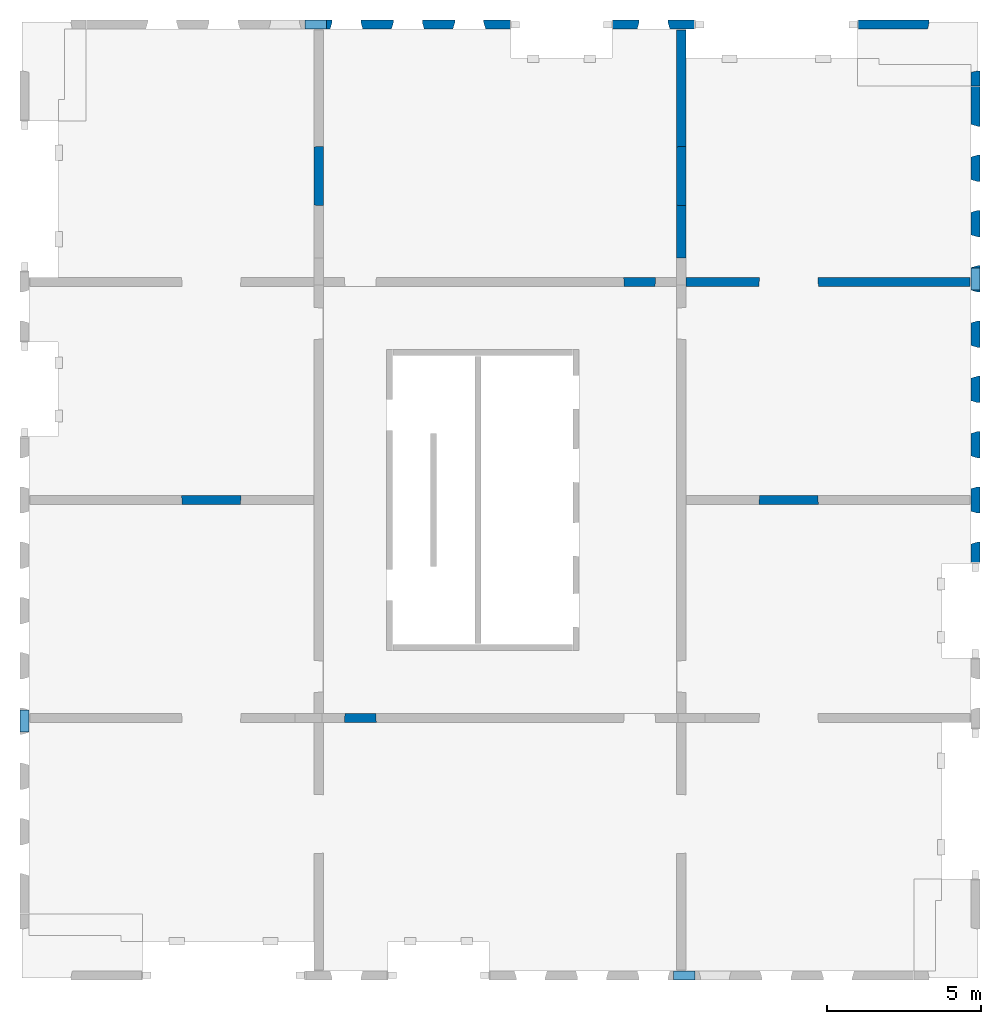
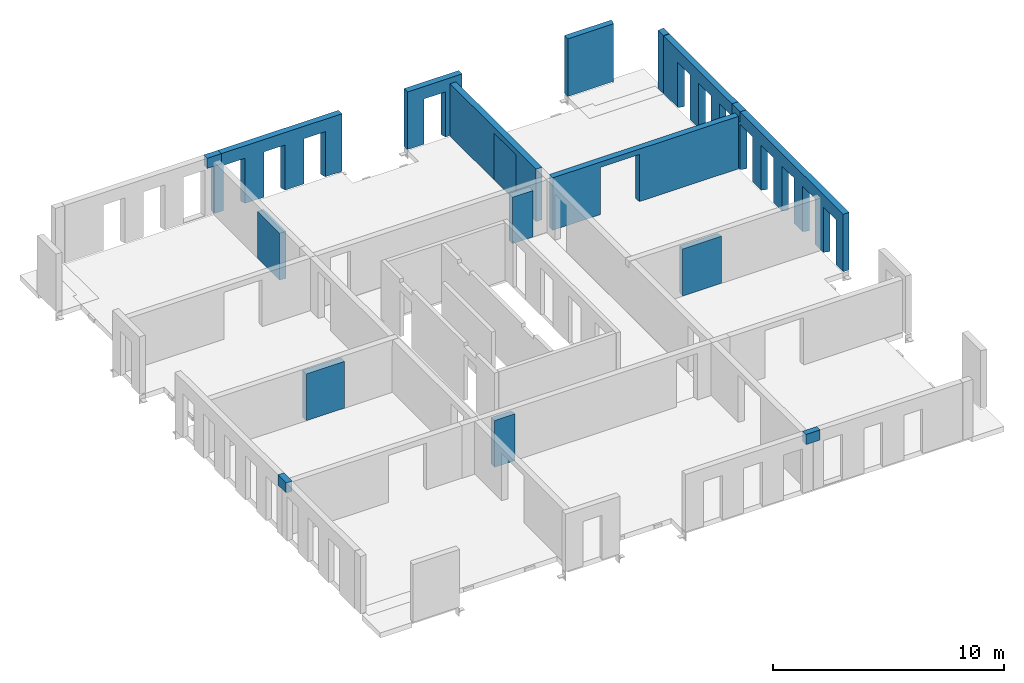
# One storey, part 4 of 4: 18 walls, 19 openings.
"""IFC2X3 building model written with IfcOpenShell, lengths in millimetres."""

from ifc_helpers import new_model, entity, si_unit, converted_unit, derived_unit, direction, frame, frame_2d, origin, place, context, subcontext, project, spatial, rectangle, extrude, faceted_brep, material, layer, layer_set, layer_usage, type_object, element, save


model = new_model("IFC2X3")

# Units and contexts
model_context = context("Model", 3, precision=0.01, world=origin(), true_north=direction((6.12303176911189e-17, 1.0)))
body_context = subcontext(model_context, "Body", "Model", "MODEL_VIEW")
ifc_project = project(units=[si_unit("LENGTHUNIT", "METRE", prefix="MILLI"), si_unit("AREAUNIT", "SQUARE_METRE"), si_unit("VOLUMEUNIT", "CUBIC_METRE"), converted_unit("PLANEANGLEUNIT", "DEGREE", entity("IfcRatioMeasure", 0.0174532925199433), si_unit("PLANEANGLEUNIT", "RADIAN"), dimensions=[0, 0, 0, 0, 0, 0, 0]), si_unit("MASSUNIT", "GRAM", prefix="KILO"), derived_unit("MASSDENSITYUNIT", [(si_unit("MASSUNIT", "GRAM", prefix="KILO"), 1), (si_unit("LENGTHUNIT", "METRE"), -3)]), si_unit("TIMEUNIT", "SECOND"), si_unit("FREQUENCYUNIT", "HERTZ"), si_unit("THERMODYNAMICTEMPERATUREUNIT", "DEGREE_CELSIUS"), derived_unit("THERMALTRANSMITTANCEUNIT", [(si_unit("MASSUNIT", "GRAM", prefix="KILO"), 1), (si_unit("THERMODYNAMICTEMPERATUREUNIT", "KELVIN"), -1), (si_unit("TIMEUNIT", "SECOND"), -3)]), derived_unit("VOLUMETRICFLOWRATEUNIT", [(si_unit("LENGTHUNIT", "METRE"), 3), (si_unit("TIMEUNIT", "SECOND"), -1)]), si_unit("ELECTRICCURRENTUNIT", "AMPERE"), si_unit("ELECTRICVOLTAGEUNIT", "VOLT"), si_unit("POWERUNIT", "WATT"), si_unit("FORCEUNIT", "NEWTON", prefix="KILO"), si_unit("ILLUMINANCEUNIT", "LUX"), si_unit("LUMINOUSFLUXUNIT", "LUMEN"), si_unit("LUMINOUSINTENSITYUNIT", "CANDELA"), derived_unit("USERDEFINED", [(si_unit("MASSUNIT", "GRAM", prefix="KILO"), -1), (si_unit("LENGTHUNIT", "METRE"), -2), (si_unit("TIMEUNIT", "SECOND"), 3), (si_unit("LUMINOUSFLUXUNIT", "LUMEN"), 1)]), derived_unit("LINEARVELOCITYUNIT", [(si_unit("LENGTHUNIT", "METRE"), 1), (si_unit("TIMEUNIT", "SECOND"), -1)]), si_unit("PRESSUREUNIT", "PASCAL"), derived_unit("USERDEFINED", [(si_unit("LENGTHUNIT", "METRE"), -2), (si_unit("MASSUNIT", "GRAM", prefix="KILO"), 1), (si_unit("TIMEUNIT", "SECOND"), -2)])], contexts=[model_context])

# Site, building, storey
site_placement = place(None, origin())
site = spatial("IfcSite", under=ifc_project, at=site_placement, Name="Default", CompositionType="ELEMENT")
building_placement = place(site_placement, origin())
building = spatial("IfcBuilding", under=site, at=building_placement, Name="niet gebruiken", CompositionType="ELEMENT")
storey_placement = place(building_placement, frame((0.0, 0.0, 137340.0)))
storey = spatial("IfcBuildingStorey", under=building, at=storey_placement, Name="44 vierenveertigste verdieping", CompositionType="ELEMENT", Elevation=137340.0)

# Wall, opening
ifc_material_1 = material(Name="NLRS_f2_beton prefab")
ifc_layer_1 = layer(ifc_material_1, 300.0)
ifc_layer_set_1 = layer_set([ifc_layer_1], Name="Basic Wall:NLRS_22.21_WA_beton prefab d=300_gen")
ifc_layer_usage_1 = layer_usage(ifc_layer_set_1, "AXIS2", "NEGATIVE", 150.0)
wall_type_1 = type_object("IfcWallType", Name="Basic Wall:NLRS_22.21_WA_beton prefab d=300_gen", PredefinedType="STANDARD", material=ifc_layer_set_1)
wall_1_placement = place(storey_placement, frame((157060.0, 24600.0, -70.0), z_axis=(0.0, 0.0, 1.0), x_axis=(-1.0, 0.0, 0.0)))
wall_1 = element("IfcWallStandardCase", 1, at=wall_1_placement, inside=storey, type_object=wall_type_1, material=ifc_layer_usage_1, Name="Basic Wall:NLRS_22.21_WA_beton prefab d=300_gen", ObjectType="Basic Wall:NLRS_22.21_WA_beton prefab d=300_gen", context=body_context, shape_type="SweptSolid", body=[
    extrude(rectangle(XDim=9260.00000000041, YDim=300.000000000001, at=frame_2d((4630.0000000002, -1.69109171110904e-12), x_axis=(-1.0, 0.0))), origin(), (0.0, 0.0, 1.0), 2769.99999999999),
])
opening_1_placement = place(wall_1_placement, frame((6878.0, 150.0, 0.0)))
element("IfcOpeningElement", 2, at=opening_1_placement, cuts=wall_1, Name="Basic Wall:NLRS_22.21_WA_beton prefab d=300_gen", ObjectType="Opening", context=body_context, shape_type="Brep", body=[
    faceted_brep([(-18.0, -300.0, 2470.0), (-1918.0, -300.0, 2470.0), (-1918.0, -300.0, 0.0), (-18.0, -300.0, 0.0), (0.0, 0.0, 2488.0), (0.0, 0.0, 0.0), (-1936.0, 0.0, 0.0), (-1936.0, 0.0, 2488.0)], [[[0, 1, 2, 3]], [[4, 5, 6, 7]], [[4, 7, 1, 0]], [[7, 6, 2, 1]], [[6, 5, 3, 2]], [[5, 4, 0, 3]]]),
])

ifc_layer_usage_2 = layer_usage(ifc_layer_set_1, "AXIS2", "NEGATIVE", 150.0)
wall_2_placement = place(storey_placement, frame((147650.0, 25380.0, -70.0), z_axis=(0.0, 0.0, 1.0), x_axis=(0.0, 1.0, 0.0)))
wall_2 = element("IfcWallStandardCase", 3, at=wall_2_placement, inside=storey, type_object=wall_type_1, material=ifc_layer_usage_2, Name="Basic Wall:NLRS_22.21_WA_beton prefab d=300_gen", ObjectType="Basic Wall:NLRS_22.21_WA_beton prefab d=300_gen", context=body_context, shape_type="SweptSolid", body=[
    extrude(rectangle(XDim=7429.99999999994, YDim=300.000000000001, at=frame_2d((3714.99999999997, 7.14805992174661e-12), x_axis=(-1.0, 0.0))), origin(), (0.0, 0.0, 1.0), 2769.99999999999),
])
opening_2_placement = place(wall_2_placement, frame((1702.0, 150.0, 0.0)))
element("IfcOpeningElement", 4, at=opening_2_placement, cuts=wall_2, Name="Basic Wall:NLRS_22.21_WA_beton prefab d=300_gen", ObjectType="Opening", context=body_context, shape_type="Brep", body=[
    faceted_brep([(1918.0, 0.0, 2470.0), (1918.0, 0.0, 0.0), (18.0, 0.0, 0.0), (18.0, 0.0, 2470.0), (1936.0, -300.0, 2488.0), (0.0, -300.0, 2488.0), (0.0, -300.0, 0.0), (1936.0, -300.0, 0.0)], [[[0, 1, 2, 3]], [[4, 5, 6, 7]], [[4, 0, 3, 5]], [[5, 3, 2, 6]], [[6, 2, 1, 7]], [[7, 1, 0, 4]]]),
])

# Walls
ifc_material_2 = material(Name="NLRS_f2_beton ihwg")
ifc_layer_2 = layer(ifc_material_2, 300.0)
ifc_layer_set_2 = layer_set([ifc_layer_2], Name="Basic Wall:NLRS_21.21_WA_beton ihwg d=300_gen")
ifc_layer_usage_3 = layer_usage(ifc_layer_set_2, "AXIS2", "NEGATIVE", 150.0)
wall_type_2 = type_object("IfcWallType", Name="Basic Wall:NLRS_21.21_WA_beton ihwg d=300_gen", PredefinedType="STANDARD", material=ifc_layer_set_2)
wall_3_placement = place(storey_placement, frame((148105.0, 2020.0, 2455.0), z_axis=(0.0, 0.0, 1.0), x_axis=(-1.0, 0.0, 0.0)))
element("IfcWallStandardCase", 5, at=wall_3_placement, inside=storey, type_object=wall_type_2, material=ifc_layer_usage_3, Name="Basic Wall:NLRS_21.21_WA_beton ihwg d=300_gen", ObjectType="Basic Wall:NLRS_21.21_WA_beton ihwg d=300_gen", context=body_context, shape_type="SweptSolid", body=[
    extrude(rectangle(XDim=710.000000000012, YDim=300.0, at=frame_2d((355.000000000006, -1.4210854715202e-14), x_axis=(-1.0, 0.0))), origin(), (0.0, 0.0, 1.0), 535.0),
])
ifc_layer_usage_4 = layer_usage(ifc_layer_set_2, "AXIS2", "NEGATIVE", 150.0)
wall_4_placement = place(storey_placement, frame((135395.0, 32980.0, 2455.0)))
element("IfcWallStandardCase", 6, at=wall_4_placement, inside=storey, type_object=wall_type_2, material=ifc_layer_usage_4, Name="Basic Wall:NLRS_21.21_WA_beton ihwg d=300_gen", ObjectType="Basic Wall:NLRS_21.21_WA_beton ihwg d=300_gen", context=body_context, shape_type="SweptSolid", body=[
    extrude(rectangle(XDim=710.000000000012, YDim=300.000000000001, at=frame_2d((355.000000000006, 0.0), x_axis=(-1.0, 0.0))), origin(), (0.0, 0.0, 1.0), 535.0),
])
ifc_layer_usage_5 = layer_usage(ifc_layer_set_2, "AXIS2", "NEGATIVE", 150.0)
wall_5_placement = place(storey_placement, frame((157230.0, 25055.0, 2455.0), z_axis=(0.0, 0.0, 1.0), x_axis=(0.0, -1.0, 0.0)))
element("IfcWallStandardCase", 7, at=wall_5_placement, inside=storey, type_object=wall_type_2, material=ifc_layer_usage_5, Name="Basic Wall:NLRS_21.21_WA_beton ihwg d=300_gen", ObjectType="Basic Wall:NLRS_21.21_WA_beton ihwg d=300_gen", context=body_context, shape_type="SweptSolid", body=[
    extrude(rectangle(XDim=710.000000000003, YDim=300.000000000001, at=frame_2d((355.000000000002, 9.9475983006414e-13), x_axis=(-1.0, 0.0))), origin(), (0.0, 0.0, 1.0), 535.0),
])
ifc_layer_usage_6 = layer_usage(ifc_layer_set_2, "AXIS2", "NEGATIVE", 150.0)
wall_6_placement = place(storey_placement, frame((126270.0, 9945.0, 2455.0), z_axis=(0.0, 0.0, 1.0), x_axis=(0.0, 1.0, 0.0)))
element("IfcWallStandardCase", 8, at=wall_6_placement, inside=storey, type_object=wall_type_2, material=ifc_layer_usage_6, Name="Basic Wall:NLRS_21.21_WA_beton ihwg d=300_gen", ObjectType="Basic Wall:NLRS_21.21_WA_beton ihwg d=300_gen", context=body_context, shape_type="SweptSolid", body=[
    extrude(rectangle(XDim=710.000000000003, YDim=300.000000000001, at=frame_2d((355.000000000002, 0.0), x_axis=(-1.0, 0.0))), origin(), (0.0, 0.0, 1.0), 535.0),
])

# Wall, opening
ifc_layer_3 = layer(ifc_material_1, 300.0)
ifc_layer_set_3 = layer_set([ifc_layer_3], Name="Basic Wall:NLRS_21.21_WA_beton prefab d=300/320_gen")
ifc_layer_usage_7 = layer_usage(ifc_layer_set_3, "AXIS2", "NEGATIVE", 150.0)
wall_type_3 = type_object("IfcWallType", Name="Basic Wall:NLRS_21.21_WA_beton prefab d=300/320_gen", PredefinedType="STANDARD", material=ifc_layer_set_3)
wall_7_placement = place(storey_placement, frame((145390.0, 32980.0, -50.0)))
wall_7 = element("IfcWallStandardCase", 9, at=wall_7_placement, inside=storey, type_object=wall_type_3, material=ifc_layer_usage_7, Name="Basic Wall:NLRS_21.21_WA_beton prefab d=300/320_gen", ObjectType="Basic Wall:NLRS_21.21_WA_beton prefab d=300/320_gen", context=body_context, shape_type="SweptSolid", body=[
    extrude(rectangle(XDim=2720.00000000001, YDim=300.000000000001, at=frame_2d((1360.0, -4.54747350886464e-13), x_axis=(-1.0, 0.0))), origin(), (0.0, 0.0, 1.0), 3040.0),
])
opening_3_placement = place(wall_7_placement, frame((825.0, -150.0, -20.0)))
element("IfcOpeningElement", 10, at=opening_3_placement, cuts=wall_7, Name="Basic Wall:NLRS_21.21_WA_beton prefab d=300/320_gen", ObjectType="Opening", context=body_context, shape_type="Brep", body=[
    faceted_brep([(0.0, 0.0, 2405.0), (0.0, 0.0, 0.0), (1070.0, 0.0, 0.0), (1070.0, 0.0, 2405.0), (1005.0, 219.0, 2370.0), (65.0, 219.0, 2370.0), (1005.0, 219.0, 0.0), (65.0, 219.0, 0.0), (65.0, 300.0, 0.0), (1005.0, 300.0, 0.0), (65.0, 300.0, 2370.0), (1005.0, 300.0, 2370.0)], [[[0, 1, 2, 3]], [[3, 4, 5, 0]], [[2, 6, 4, 3]], [[1, 7, 8, 9, 6, 2]], [[0, 5, 7, 1]], [[10, 11, 9, 8]], [[10, 5, 4, 11]], [[11, 4, 6, 9]], [[8, 7, 5, 10]]]),
])

# Wall, openings
ifc_layer_usage_8 = layer_usage(ifc_layer_set_3, "AXIS2", "NEGATIVE", 150.0)
wall_8_placement = place(storey_placement, frame((157230.0, 30960.0, -50.0), z_axis=(0.0, 0.0, 1.0), x_axis=(0.0, -1.0, 0.0)))
wall_8 = element("IfcWallStandardCase", 11, at=wall_8_placement, inside=storey, type_object=wall_type_3, material=ifc_layer_usage_8, Name="Basic Wall:NLRS_21.21_WA_beton prefab d=300/320_gen", ObjectType="Basic Wall:NLRS_21.21_WA_beton prefab d=300/320_gen", context=body_context, shape_type="SweptSolid", body=[
    extrude(rectangle(XDim=6249.99999999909, YDim=300.000000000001, at=frame_2d((3124.99999999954, -8.61177795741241e-12), x_axis=(-1.0, 0.0))), origin(), (0.0, 0.0, 1.0), 3040.0),
])
opening_4_placement = place(wall_8_placement, frame((2295.0, -150.0, -20.0)))
element("IfcOpeningElement", 12, at=opening_4_placement, cuts=wall_8, Name="Basic Wall:NLRS_21.21_WA_beton prefab d=300/320_gen", ObjectType="Opening", context=body_context, shape_type="Brep", body=[
    faceted_brep([(-1070.0, 0.0, 2405.0), (-1070.0, 0.0, 0.0), (0.0, 0.0, 0.0), (0.0, 0.0, 2405.0), (-65.0, 219.0, 2370.0), (-1005.0, 219.0, 2370.0), (-65.0, 219.0, 0.0), (-1005.0, 219.0, 0.0), (-1005.0, 300.0, 0.0), (-65.0, 300.0, 0.0), (-1005.0, 300.0, 2370.0), (-65.0, 300.0, 2370.0)], [[[0, 1, 2, 3]], [[3, 4, 5, 0]], [[2, 6, 4, 3]], [[1, 7, 8, 9, 6, 2]], [[0, 5, 7, 1]], [[10, 11, 9, 8]], [[10, 5, 4, 11]], [[11, 4, 6, 9]], [[8, 7, 5, 10]]]),
])
opening_5_placement = place(wall_8_placement, frame((4095.0, -150.0, -20.0)))
element("IfcOpeningElement", 13, at=opening_5_placement, cuts=wall_8, Name="Basic Wall:NLRS_21.21_WA_beton prefab d=300/320_gen", ObjectType="Opening", context=body_context, shape_type="Brep", body=[
    faceted_brep([(-1070.0, 0.0, 2405.0), (-1070.0, 0.0, 0.0), (0.0, 0.0, 0.0), (0.0, 0.0, 2405.0), (-65.0, 219.0, 2370.0), (-1005.0, 219.0, 2370.0), (-65.0, 219.0, 0.0), (-1005.0, 219.0, 0.0), (-1005.0, 300.0, 0.0), (-65.0, 300.0, 0.0), (-1005.0, 300.0, 2370.0), (-65.0, 300.0, 2370.0)], [[[0, 1, 2, 3]], [[3, 4, 5, 0]], [[2, 6, 4, 3]], [[1, 7, 8, 9, 6, 2]], [[0, 5, 7, 1]], [[10, 11, 9, 8]], [[10, 5, 4, 11]], [[11, 4, 6, 9]], [[8, 7, 5, 10]]]),
])
opening_6_placement = place(wall_8_placement, frame((5895.0, -150.0, -20.0)))
element("IfcOpeningElement", 14, at=opening_6_placement, cuts=wall_8, Name="Basic Wall:NLRS_21.21_WA_beton prefab d=300/320_gen", ObjectType="Opening", context=body_context, shape_type="Brep", body=[
    faceted_brep([(-1070.0, 0.0, 2405.0), (-1070.0, 0.0, 0.0), (0.0, 0.0, 0.0), (0.0, 0.0, 2405.0), (-65.0, 219.0, 2370.0), (-1005.0, 219.0, 2370.0), (-65.0, 219.0, 0.0), (-1005.0, 219.0, 0.0), (-1005.0, 300.0, 0.0), (-65.0, 300.0, 0.0), (-1005.0, 300.0, 2370.0), (-65.0, 300.0, 2370.0)], [[[0, 1, 2, 3]], [[3, 4, 5, 0]], [[2, 6, 4, 3]], [[1, 7, 8, 9, 6, 2]], [[0, 5, 7, 1]], [[10, 11, 9, 8]], [[10, 5, 4, 11]], [[11, 4, 6, 9]], [[8, 7, 5, 10]]]),
])
opening_7_placement = place(wall_8_placement, origin())
element("IfcOpeningElement", 15, at=opening_7_placement, cuts=wall_8, Name="Basic Wall:NLRS_21.21_WA_beton prefab d=300/320_gen", ObjectType="Opening", context=body_context, shape_type="SweptSolid", body=[
    extrude(rectangle(XDim=534.99999999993, YDim=344.999999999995, at=frame_2d((0.0, -2.17426077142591e-12), x_axis=(1.0, 0.0))), frame((6077.49999999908, 150.0, 2772.50000000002), z_axis=(0.0, -1.0, 0.0), x_axis=(0.0, 0.0, 1.0)), (0.0, 0.0, 1.0), 300.0),
])

# Wall, opening
ifc_layer_usage_9 = layer_usage(ifc_layer_set_3, "AXIS2", "NEGATIVE", 150.0)
wall_9_placement = place(storey_placement, frame((153390.0, 32980.0, -50.0)))
wall_9 = element("IfcWallStandardCase", 16, at=wall_9_placement, inside=storey, type_object=wall_type_3, material=ifc_layer_usage_9, Name="Basic Wall:NLRS_21.21_WA_beton prefab d=300/320_gen", ObjectType="Basic Wall:NLRS_21.21_WA_beton prefab d=300/320_gen", context=body_context, shape_type="SweptSolid", body=[
    extrude(rectangle(XDim=2330.00000000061, YDim=300.000000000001, at=frame_2d((1165.00000000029, -1.29318777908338e-12), x_axis=(-1.0, 0.0))), origin(), (0.0, 0.0, 1.0), 3040.0),
])
opening_8_placement = place(wall_9_placement, frame((2265.0, -250.0, 0.0)))
element("IfcOpeningElement", 17, at=opening_8_placement, cuts=wall_9, Name="Basic Wall:NLRS_21.21_WA_beton prefab d=300/320_gen", ObjectType="Opening", context=body_context, shape_type="Brep", body=[
    faceted_brep([(65.0, 0.0, 3040.0), (65.0, 319.0, 3040.0), (0.0, 0.0, 3040.0), (65.0, 0.0, 0.0), (0.0, 0.0, 0.0), (65.0, 319.0, 0.0)], [[[0, 1, 2]], [[3, 4, 5]], [[2, 4, 3, 0]], [[0, 3, 5, 1]], [[1, 5, 4, 2]]]),
])

ifc_layer_usage_10 = layer_usage(ifc_layer_set_3, "AXIS2", "NEGATIVE", 150.0)
wall_10_placement = place(storey_placement, frame((157230.0, 31470.0, -50.0), z_axis=(0.0, 0.0, 1.0), x_axis=(0.0, -1.0, 0.0)))
wall_10 = element("IfcWallStandardCase", 18, at=wall_10_placement, inside=storey, type_object=wall_type_3, material=ifc_layer_usage_10, Name="Basic Wall:NLRS_21.21_WA_beton prefab d=300/320_gen", ObjectType="Basic Wall:NLRS_21.21_WA_beton prefab d=300/320_gen", context=body_context, shape_type="SweptSolid", body=[
    extrude(rectangle(XDim=489.999999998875, YDim=300.000000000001, at=frame_2d((244.999999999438, -7.8159700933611e-13), x_axis=(-1.0, 0.0))), origin(), (0.0, 0.0, 1.0), 3040.0),
])
opening_9_placement = place(wall_10_placement, frame((65.0, -250.0, 0.0)))
element("IfcOpeningElement", 19, at=opening_9_placement, cuts=wall_10, Name="Basic Wall:NLRS_21.21_WA_beton prefab d=300/320_gen", ObjectType="Opening", context=body_context, shape_type="Brep", body=[
    faceted_brep([(-65.0, 0.0, 3040.0), (0.0, 0.0, 3040.0), (-65.0, 319.0, 3040.0), (-65.0, 0.0, 0.0), (-65.0, 319.0, 0.0), (0.0, 0.0, 0.0)], [[[0, 1, 2]], [[3, 4, 5]], [[1, 0, 3, 5]], [[0, 2, 4, 3]], [[2, 1, 5, 4]]]),
])

# Wall, openings
ifc_layer_usage_11 = layer_usage(ifc_layer_set_3, "AXIS2", "NEGATIVE", 150.0)
wall_11_placement = place(storey_placement, frame((157230.0, 24690.0, -50.0), z_axis=(0.0, 0.0, 1.0), x_axis=(0.0, -1.0, 0.0)))
wall_11 = element("IfcWallStandardCase", 20, at=wall_11_placement, inside=storey, type_object=wall_type_3, material=ifc_layer_usage_11, Name="Basic Wall:NLRS_21.21_WA_beton prefab d=300/320_gen", ObjectType="Basic Wall:NLRS_21.21_WA_beton prefab d=300/320_gen", context=body_context, shape_type="SweptSolid", body=[
    extrude(rectangle(XDim=9250.00000000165, YDim=300.000000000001, at=frame_2d((4625.00000000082, -4.43378667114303e-12), x_axis=(-1.0, 0.0))), origin(), (0.0, 0.0, 1.0), 3040.0),
])
opening_10_placement = place(wall_11_placement, frame((8625.0, -150.0, -20.0)))
element("IfcOpeningElement", 21, at=opening_10_placement, cuts=wall_11, Name="Basic Wall:NLRS_21.21_WA_beton prefab d=300/320_gen", ObjectType="Opening", context=body_context, shape_type="Brep", body=[
    faceted_brep([(-1070.0, 0.0, 2405.0), (-1070.0, 0.0, 0.0), (0.0, 0.0, 0.0), (0.0, 0.0, 2405.0), (-65.0, 219.0, 2370.0), (-1005.0, 219.0, 2370.0), (-65.0, 219.0, 0.0), (-1005.0, 219.0, 0.0), (-1005.0, 300.0, 0.0), (-65.0, 300.0, 0.0), (-1005.0, 300.0, 2370.0), (-65.0, 300.0, 2370.0)], [[[0, 1, 2, 3]], [[3, 4, 5, 0]], [[2, 6, 4, 3]], [[1, 7, 8, 9, 6, 2]], [[0, 5, 7, 1]], [[10, 11, 9, 8]], [[10, 5, 4, 11]], [[11, 4, 6, 9]], [[8, 7, 5, 10]]]),
])
opening_11_placement = place(wall_11_placement, frame((5025.0, -150.0, -20.0)))
element("IfcOpeningElement", 22, at=opening_11_placement, cuts=wall_11, Name="Basic Wall:NLRS_21.21_WA_beton prefab d=300/320_gen", ObjectType="Opening", context=body_context, shape_type="Brep", body=[
    faceted_brep([(-1070.0, 0.0, 2405.0), (-1070.0, 0.0, 0.0), (0.0, 0.0, 0.0), (0.0, 0.0, 2405.0), (-65.0, 219.0, 2370.0), (-1005.0, 219.0, 2370.0), (-65.0, 219.0, 0.0), (-1005.0, 219.0, 0.0), (-1005.0, 300.0, 0.0), (-65.0, 300.0, 0.0), (-1005.0, 300.0, 2370.0), (-65.0, 300.0, 2370.0)], [[[0, 1, 2, 3]], [[3, 4, 5, 0]], [[2, 6, 4, 3]], [[1, 7, 8, 9, 6, 2]], [[0, 5, 7, 1]], [[10, 11, 9, 8]], [[10, 5, 4, 11]], [[11, 4, 6, 9]], [[8, 7, 5, 10]]]),
])
opening_12_placement = place(wall_11_placement, frame((3225.0, -150.0, -20.0)))
element("IfcOpeningElement", 23, at=opening_12_placement, cuts=wall_11, Name="Basic Wall:NLRS_21.21_WA_beton prefab d=300/320_gen", ObjectType="Opening", context=body_context, shape_type="Brep", body=[
    faceted_brep([(-1070.0, 0.0, 2405.0), (-1070.0, 0.0, 0.0), (0.0, 0.0, 0.0), (0.0, 0.0, 2405.0), (-65.0, 219.0, 2370.0), (-1005.0, 219.0, 2370.0), (-65.0, 219.0, 0.0), (-1005.0, 219.0, 0.0), (-1005.0, 300.0, 0.0), (-65.0, 300.0, 0.0), (-1005.0, 300.0, 2370.0), (-65.0, 300.0, 2370.0)], [[[0, 1, 2, 3]], [[3, 4, 5, 0]], [[2, 6, 4, 3]], [[1, 7, 8, 9, 6, 2]], [[0, 5, 7, 1]], [[10, 11, 9, 8]], [[10, 5, 4, 11]], [[11, 4, 6, 9]], [[8, 7, 5, 10]]]),
])
opening_13_placement = place(wall_11_placement, frame((6825.0, -150.0, -20.0)))
element("IfcOpeningElement", 24, at=opening_13_placement, cuts=wall_11, Name="Basic Wall:NLRS_21.21_WA_beton prefab d=300/320_gen", ObjectType="Opening", context=body_context, shape_type="Brep", body=[
    faceted_brep([(-1070.0, 0.0, 2405.0), (-1070.0, 0.0, 0.0), (0.0, 0.0, 0.0), (0.0, 0.0, 2405.0), (-65.0, 219.0, 2370.0), (-1005.0, 219.0, 2370.0), (-65.0, 219.0, 0.0), (-1005.0, 219.0, 0.0), (-1005.0, 300.0, 0.0), (-65.0, 300.0, 0.0), (-1005.0, 300.0, 2370.0), (-65.0, 300.0, 2370.0)], [[[0, 1, 2, 3]], [[3, 4, 5, 0]], [[2, 6, 4, 3]], [[1, 7, 8, 9, 6, 2]], [[0, 5, 7, 1]], [[10, 11, 9, 8]], [[10, 5, 4, 11]], [[11, 4, 6, 9]], [[8, 7, 5, 10]]]),
])
opening_14_placement = place(wall_11_placement, frame((1425.0, -150.0, -20.0)))
element("IfcOpeningElement", 25, at=opening_14_placement, cuts=wall_11, Name="Basic Wall:NLRS_21.21_WA_beton prefab d=300/320_gen", ObjectType="Opening", context=body_context, shape_type="Brep", body=[
    faceted_brep([(0.0, 0.0, 2405.0), (-1070.0, 0.0, 2405.0), (-1070.0, 0.0, 0.0), (0.0, 0.0, 0.0), (-65.0, 219.0, 2370.0), (-1005.0, 219.0, 2370.0), (-1005.0, 219.0, 0.0), (-1005.0, 300.0, 0.0), (-65.0, 300.0, 0.0), (-65.0, 219.0, 0.0), (-65.0, 300.0, 2370.0), (-1005.0, 300.0, 2370.0)], [[[0, 1, 2, 3]], [[1, 0, 4, 5]], [[2, 1, 5, 6]], [[3, 2, 6, 7, 8, 9]], [[0, 3, 9, 4]], [[10, 8, 7, 11]], [[10, 11, 5, 4]], [[11, 7, 6, 5]], [[8, 10, 4, 9]]]),
])
opening_15_placement = place(wall_11_placement, origin())
element("IfcOpeningElement", 26, at=opening_15_placement, cuts=wall_11, Name="Basic Wall:NLRS_21.21_WA_beton prefab d=300/320_gen", ObjectType="Opening", context=body_context, shape_type="SweptSolid", body=[
    extrude(rectangle(XDim=534.999999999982, YDim=345.000000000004, at=frame_2d((-2.1600499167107e-12, -8.66862137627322e-12), x_axis=(0.0, 1.0))), frame((172.5, 150.0, 2772.5), z_axis=(0.0, -1.0, 0.0), x_axis=(-1.0, 0.0, 0.0)), (0.0, 0.0, 1.0), 300.0),
])

ifc_layer_usage_12 = layer_usage(ifc_layer_set_3, "AXIS2", "NEGATIVE", 150.0)
wall_12_placement = place(storey_placement, frame((135760.0, 32980.0, -50.0)))
wall_12 = element("IfcWallStandardCase", 27, at=wall_12_placement, inside=storey, type_object=wall_type_3, material=ifc_layer_usage_12, Name="Basic Wall:NLRS_21.21_WA_beton prefab d=300/320_gen", ObjectType="Basic Wall:NLRS_21.21_WA_beton prefab d=300/320_gen", context=body_context, shape_type="SweptSolid", body=[
    extrude(rectangle(XDim=6350.00000000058, YDim=300.000000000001, at=frame_2d((3175.00000000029, 0.0), x_axis=(-1.0, 0.0))), origin(), (0.0, 0.0, 1.0), 3040.0),
])
opening_16_placement = place(wall_12_placement, frame((455.0, -150.0, -20.0)))
element("IfcOpeningElement", 28, at=opening_16_placement, cuts=wall_12, Name="Basic Wall:NLRS_21.21_WA_beton prefab d=300/320_gen", ObjectType="Opening", context=body_context, shape_type="Brep", body=[
    faceted_brep([(1070.0, 0.0, 2405.0), (0.0, 0.0, 2405.0), (0.0, 0.0, 0.0), (1070.0, 0.0, 0.0), (1005.0, 219.0, 2370.0), (65.0, 219.0, 2370.0), (65.0, 219.0, 0.0), (65.0, 300.0, 0.0), (1005.0, 300.0, 0.0), (1005.0, 219.0, 0.0), (1005.0, 300.0, 2370.0), (65.0, 300.0, 2370.0)], [[[0, 1, 2, 3]], [[1, 0, 4, 5]], [[2, 1, 5, 6]], [[3, 2, 6, 7, 8, 9]], [[0, 3, 9, 4]], [[10, 8, 7, 11]], [[10, 11, 5, 4]], [[11, 7, 6, 5]], [[8, 10, 4, 9]]]),
])
opening_17_placement = place(wall_12_placement, frame((2455.0, -150.0, -20.0)))
element("IfcOpeningElement", 29, at=opening_17_placement, cuts=wall_12, Name="Basic Wall:NLRS_21.21_WA_beton prefab d=300/320_gen", ObjectType="Opening", context=body_context, shape_type="Brep", body=[
    faceted_brep([(1070.0, 0.0, 2405.0), (0.0, 0.0, 2405.0), (0.0, 0.0, 0.0), (1070.0, 0.0, 0.0), (1005.0, 219.0, 2370.0), (65.0, 219.0, 2370.0), (65.0, 219.0, 0.0), (65.0, 300.0, 0.0), (1005.0, 300.0, 0.0), (1005.0, 219.0, 0.0), (1005.0, 300.0, 2370.0), (65.0, 300.0, 2370.0)], [[[0, 1, 2, 3]], [[1, 0, 4, 5]], [[2, 1, 5, 6]], [[3, 2, 6, 7, 8, 9]], [[0, 3, 9, 4]], [[10, 8, 7, 11]], [[10, 11, 5, 4]], [[11, 7, 6, 5]], [[8, 10, 4, 9]]]),
])
opening_18_placement = place(wall_12_placement, frame((4455.0, -150.0, -20.0)))
element("IfcOpeningElement", 30, at=opening_18_placement, cuts=wall_12, Name="Basic Wall:NLRS_21.21_WA_beton prefab d=300/320_gen", ObjectType="Opening", context=body_context, shape_type="Brep", body=[
    faceted_brep([(1070.0, 0.0, 2405.0), (0.0, 0.0, 2405.0), (0.0, 0.0, 0.0), (1070.0, 0.0, 0.0), (1005.0, 219.0, 2370.0), (65.0, 219.0, 2370.0), (65.0, 219.0, 0.0), (65.0, 300.0, 0.0), (1005.0, 300.0, 0.0), (1005.0, 219.0, 0.0), (1005.0, 300.0, 2370.0), (65.0, 300.0, 2370.0)], [[[0, 1, 2, 3]], [[1, 0, 4, 5]], [[2, 1, 5, 6]], [[3, 2, 6, 7, 8, 9]], [[0, 3, 9, 4]], [[10, 8, 7, 11]], [[10, 11, 5, 4]], [[11, 7, 6, 5]], [[8, 10, 4, 9]]]),
])
opening_19_placement = place(wall_12_placement, origin())
element("IfcOpeningElement", 31, at=opening_19_placement, cuts=wall_12, Name="Basic Wall:NLRS_21.21_WA_beton prefab d=300/320_gen", ObjectType="Opening", context=body_context, shape_type="SweptSolid", body=[
    extrude(rectangle(XDim=534.999999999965, YDim=345.000000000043, at=frame_2d((0.0, 0.0), x_axis=(0.0, 1.0))), frame((172.500000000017, 150.0, 2772.5), z_axis=(0.0, -1.0, 0.0), x_axis=(-1.0, 0.0, 0.0)), (0.0, 0.0, 1.0), 300.0),
])

# Walls
ifc_material_3 = material(Name="NLRS_f2_beton prefab dichtstorten")
wall_type_4 = type_object("IfcWallType", Name="Parametric Wall:NLRS_22.21_WA_beton prefab d=500 1900x2470_gen", PredefinedType="NOTDEFINED", material=ifc_material_3)
wall_13_placement = place(storey_placement, frame((131382.0, 17350.0, -70.0)))
element("IfcWall", 32, at=wall_13_placement, inside=storey, type_object=wall_type_4, material=ifc_material_3, Name="Parametric Wall:NLRS_22.21_WA_beton prefab d=500 1900x2470_gen", ObjectType="Parametric Wall:NLRS_22.21_WA_beton prefab d=500 1900x2470_gen", context=body_context, shape_type="Brep", body=[
    faceted_brep([(1936.0, 300.0, 2488.0), (1936.0, 300.0, 0.0), (0.0, 300.0, 0.0), (0.0, 300.0, 2488.0), (1918.0, 0.0, 2470.0), (18.0, 0.0, 2470.0), (18.0, 0.0, 0.0), (1918.0, 0.0, 0.0)], [[[0, 1, 2, 3]], [[4, 5, 6, 7]], [[4, 7, 1, 0]], [[7, 6, 2, 1]], [[6, 5, 3, 2]], [[5, 4, 0, 3]]]),
])
for number, where, z_axis, x_axis in (
    (33, (147500.0, 27082.0, -70.0), (0.0, 0.0, 1.0), (0.0, 1.0, 0.0)),
    (34, (135700.0, 27082.0, -70.0), (0.0, 0.0, 1.0), (0.0, 1.0, 0.0)),
):
    element("IfcWall", number, at=place(storey_placement, frame(where, z_axis=z_axis, x_axis=x_axis)), inside=storey, type_object=wall_type_4, material=ifc_material_3, Name="Parametric Wall:NLRS_22.21_WA_beton prefab d=500 1900x2470_gen", ObjectType="Parametric Wall:NLRS_22.21_WA_beton prefab d=500 1900x2470_gen", context=body_context, shape_type="Brep", body=[
        faceted_brep([(0.0, -300.0, 2488.0), (0.0, -300.0, 0.0), (1936.0, -300.0, 0.0), (1936.0, -300.0, 2488.0), (18.0, 0.0, 2470.0), (1918.0, 0.0, 2470.0), (1918.0, 0.0, 0.0), (18.0, 0.0, 0.0)], [[[0, 1, 2, 3]], [[4, 5, 6, 7]], [[4, 7, 1, 0]], [[7, 6, 2, 1]], [[6, 5, 3, 2]], [[5, 4, 0, 3]]]),
    ])
wall_14_placement = place(storey_placement, frame((150182.0, 17350.0, -70.0)))
element("IfcWall", 35, at=wall_14_placement, inside=storey, type_object=wall_type_4, material=ifc_material_3, Name="Parametric Wall:NLRS_22.21_WA_beton prefab d=500 1900x2470_gen", ObjectType="Parametric Wall:NLRS_22.21_WA_beton prefab d=500 1900x2470_gen", context=body_context, shape_type="Brep", body=[
    faceted_brep([(0.0, 0.0, 2488.0), (0.0, 0.0, 0.0), (1936.0, 0.0, 0.0), (1936.0, 0.0, 2488.0), (18.0, 300.0, 2470.0), (1918.0, 300.0, 2470.0), (1918.0, 300.0, 0.0), (18.0, 300.0, 0.0)], [[[0, 1, 2, 3]], [[4, 5, 6, 7]], [[4, 7, 1, 0]], [[7, 6, 2, 1]], [[6, 5, 3, 2]], [[5, 4, 0, 3]]]),
])
wall_type_5 = type_object("IfcWallType", Name="Parametric Wall:NLRS_22.21_WA_beton prefab d=500 1006x2448_gen", PredefinedType="NOTDEFINED", material=ifc_material_3)
wall_15_placement = place(storey_placement, frame((136682.0, 10250.0, -70.0)))
element("IfcWall", 36, at=wall_15_placement, inside=storey, type_object=wall_type_5, material=ifc_material_3, Name="Parametric Wall:NLRS_22.21_WA_beton prefab d=500 1006x2448_gen", ObjectType="Parametric Wall:NLRS_22.21_WA_beton prefab d=500 1006x2448_gen", context=body_context, shape_type="Brep", body=[
    faceted_brep([(0.0, 0.0, 2466.0), (0.0, 0.0, 0.0), (1042.0, 0.0, 0.0), (1042.0, 0.0, 2466.0), (18.0, 300.0, 2448.0), (1024.0, 300.0, 2448.0), (1024.0, 300.0, 0.0), (18.0, 300.0, 0.0)], [[[0, 1, 2, 3]], [[4, 5, 6, 7]], [[4, 7, 1, 0]], [[7, 6, 2, 1]], [[6, 5, 3, 2]], [[5, 4, 0, 3]]]),
])
wall_16_placement = place(storey_placement, frame((145776.0, 24450.0, -70.0)))
element("IfcWall", 37, at=wall_16_placement, inside=storey, type_object=wall_type_5, material=ifc_material_3, Name="Parametric Wall:NLRS_22.21_WA_beton prefab d=500 1006x2448_gen", ObjectType="Parametric Wall:NLRS_22.21_WA_beton prefab d=500 1006x2448_gen", context=body_context, shape_type="Brep", body=[
    faceted_brep([(1042.0, 300.0, 2466.0), (1042.0, 300.0, 0.0), (0.0, 300.0, 0.0), (0.0, 300.0, 2466.0), (1024.0, 0.0, 2448.0), (18.0, 0.0, 2448.0), (18.0, 0.0, 0.0), (1024.0, 0.0, 0.0)], [[[0, 1, 2, 3]], [[4, 5, 6, 7]], [[4, 7, 1, 0]], [[7, 6, 2, 1]], [[6, 5, 3, 2]], [[5, 4, 0, 3]]]),
])

save(model, "model.ifc")
